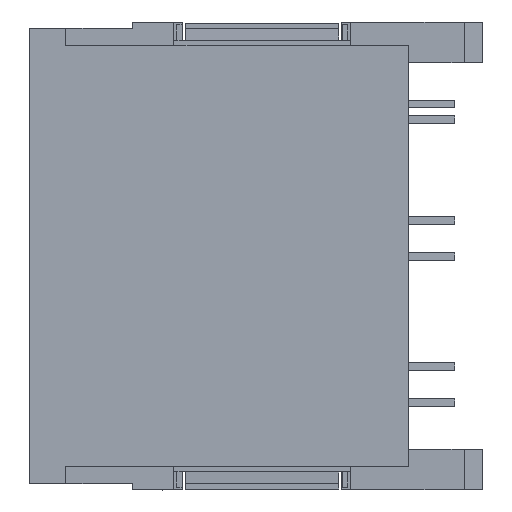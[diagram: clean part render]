
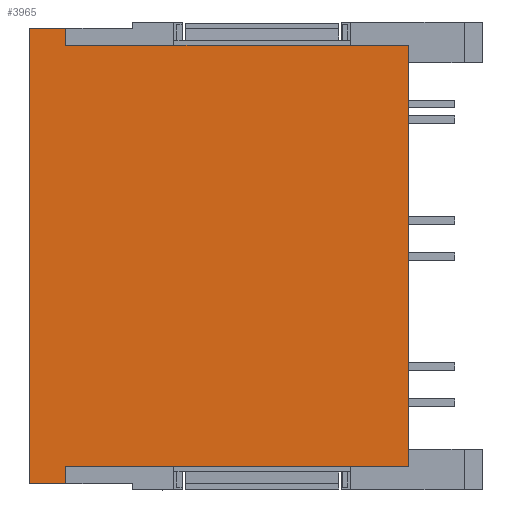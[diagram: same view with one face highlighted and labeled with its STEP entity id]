
A CAD part, top view. The second image highlights one B-rep face of the part: STEP entity #3965.
In plain terms, the highlighted planar face has unit normal (0, 0, 1).
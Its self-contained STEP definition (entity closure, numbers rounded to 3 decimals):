
#3943=AXIS2_PLACEMENT_3D('Plane Axis2P3D',#3940,#3941,#3942) ;
#2008=CARTESIAN_POINT('Vertex',(6.,3.25,5.7)) ;
#2011=CARTESIAN_POINT('Line Origine',(6.,-8.425,5.7)) ;
#2015=CARTESIAN_POINT('Vertex',(6.,-20.1,5.7)) ;
#2220=CARTESIAN_POINT('Line Origine',(-3.5,-20.1,5.7)) ;
#2224=CARTESIAN_POINT('Vertex',(-13.,-20.1,5.7)) ;
#2895=CARTESIAN_POINT('Vertex',(-15.,-21.05,5.7)) ;
#2902=CARTESIAN_POINT('Vertex',(-13.,-21.05,5.7)) ;
#2905=CARTESIAN_POINT('Line Origine',(-14.,-21.05,5.7)) ;
#2929=CARTESIAN_POINT('Vertex',(-15.,4.2,5.7)) ;
#2932=CARTESIAN_POINT('Line Origine',(-15.,-8.425,5.7)) ;
#3144=CARTESIAN_POINT('Line Origine',(-14.,4.2,5.7)) ;
#3148=CARTESIAN_POINT('Vertex',(-13.,4.2,5.7)) ;
#3908=CARTESIAN_POINT('Vertex',(-13.,3.25,5.7)) ;
#3911=CARTESIAN_POINT('Line Origine',(-3.5,3.25,5.7)) ;
#3940=CARTESIAN_POINT('Axis2P3D Location',(0.,-25.675,5.7)) ;
#3945=CARTESIAN_POINT('Line Origine',(-13.,-20.575,5.7)) ;
#3950=CARTESIAN_POINT('Line Origine',(-13.,3.725,5.7)) ;
#2012=DIRECTION('Vector Direction',(0.,1.,0.)) ;
#2221=DIRECTION('Vector Direction',(-1.,0.,0.)) ;
#2906=DIRECTION('Vector Direction',(1.,0.,0.)) ;
#2933=DIRECTION('Vector Direction',(0.,1.,0.)) ;
#3145=DIRECTION('Vector Direction',(-1.,0.,0.)) ;
#3912=DIRECTION('Vector Direction',(-1.,0.,0.)) ;
#3941=DIRECTION('Axis2P3D Direction',(0.,0.,-1.)) ;
#3942=DIRECTION('Axis2P3D XDirection',(0.,1.,0.)) ;
#3946=DIRECTION('Vector Direction',(0.,-1.,0.)) ;
#3951=DIRECTION('Vector Direction',(0.,1.,0.)) ;
#2013=VECTOR('Line Direction',#2012,1.) ;
#2222=VECTOR('Line Direction',#2221,1.) ;
#2907=VECTOR('Line Direction',#2906,1.) ;
#2934=VECTOR('Line Direction',#2933,1.) ;
#3146=VECTOR('Line Direction',#3145,1.) ;
#3913=VECTOR('Line Direction',#3912,1.) ;
#3947=VECTOR('Line Direction',#3946,1.) ;
#3952=VECTOR('Line Direction',#3951,1.) ;
#3956=ORIENTED_EDGE('',*,*,#2936,.F.) ;
#3957=ORIENTED_EDGE('',*,*,#2909,.T.) ;
#3958=ORIENTED_EDGE('',*,*,#3949,.F.) ;
#3959=ORIENTED_EDGE('',*,*,#2226,.F.) ;
#3960=ORIENTED_EDGE('',*,*,#2017,.T.) ;
#3961=ORIENTED_EDGE('',*,*,#3915,.T.) ;
#3962=ORIENTED_EDGE('',*,*,#3954,.T.) ;
#3963=ORIENTED_EDGE('',*,*,#3150,.T.) ;
#3965=ADVANCED_FACE('\X2\FF8EFF9EFF83FF9EFF68FF70\X0\1',(#3964),#3944,.F.) ;
#2017=EDGE_CURVE('',#2016,#2009,#2014,.T.) ;
#2226=EDGE_CURVE('',#2016,#2225,#2223,.T.) ;
#2909=EDGE_CURVE('',#2896,#2903,#2908,.T.) ;
#2936=EDGE_CURVE('',#2896,#2930,#2935,.T.) ;
#3150=EDGE_CURVE('',#3149,#2930,#3147,.T.) ;
#3915=EDGE_CURVE('',#2009,#3909,#3914,.T.) ;
#3949=EDGE_CURVE('',#2225,#2903,#3948,.T.) ;
#3954=EDGE_CURVE('',#3909,#3149,#3953,.T.) ;
#3955=EDGE_LOOP('',(#3956,#3957,#3958,#3959,#3960,#3961,#3962,#3963)) ;
#3964=FACE_OUTER_BOUND('',#3955,.T.) ;
#2014=LINE('Line',#2011,#2013) ;
#2223=LINE('Line',#2220,#2222) ;
#2908=LINE('Line',#2905,#2907) ;
#2935=LINE('Line',#2932,#2934) ;
#3147=LINE('Line',#3144,#3146) ;
#3914=LINE('Line',#3911,#3913) ;
#3948=LINE('Line',#3945,#3947) ;
#3953=LINE('Line',#3950,#3952) ;
#3944=PLANE('',#3943) ;
#2009=VERTEX_POINT('',#2008) ;
#2016=VERTEX_POINT('',#2015) ;
#2225=VERTEX_POINT('',#2224) ;
#2896=VERTEX_POINT('',#2895) ;
#2903=VERTEX_POINT('',#2902) ;
#2930=VERTEX_POINT('',#2929) ;
#3149=VERTEX_POINT('',#3148) ;
#3909=VERTEX_POINT('',#3908) ;
